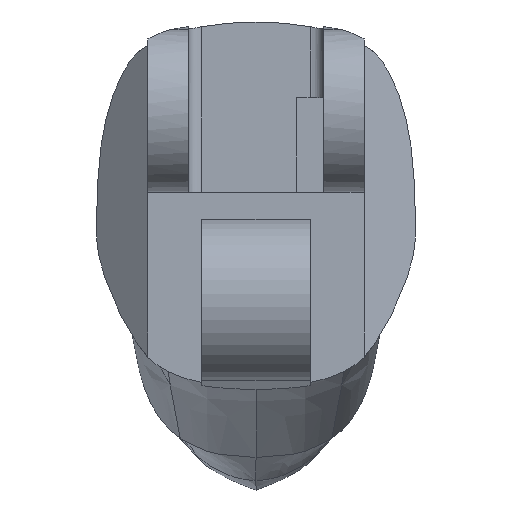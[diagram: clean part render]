
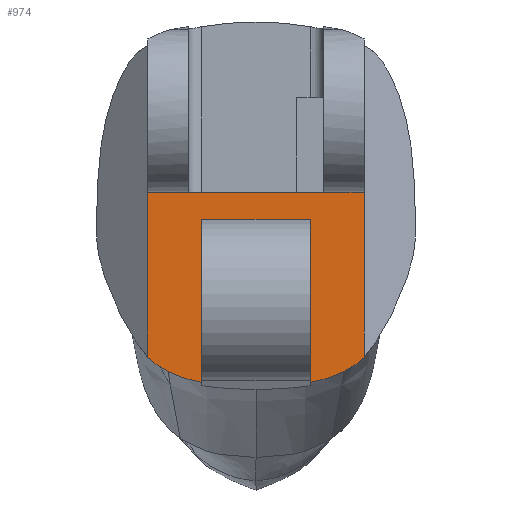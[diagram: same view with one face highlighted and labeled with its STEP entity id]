
A CAD part, top view. The second image highlights one B-rep face of the part: STEP entity #974.
In plain terms, the highlighted planar face has unit normal (0, 0, 1).
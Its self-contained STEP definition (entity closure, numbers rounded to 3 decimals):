
#48=B_SPLINE_CURVE_WITH_KNOTS('',3,(#1418,#1419,#1420,#1421,#1422,#1423),
 .UNSPECIFIED.,.F.,.F.,(4,2,4),(-0.347,-0.128,0.),
 .UNSPECIFIED.);
#96=B_SPLINE_CURVE_WITH_KNOTS('',3,(#2527,#2528,#2529,#2530,#2531,#2532),
 .UNSPECIFIED.,.F.,.F.,(4,2,4),(-0.347,-0.128,0.),
 .UNSPECIFIED.);
#141=PLANE('',#1049);
#178=FACE_OUTER_BOUND('',#229,.T.);
#229=EDGE_LOOP('',(#781,#782,#783,#784,#785,#786,#787,#788,#789,#790));
#267=LINE('',#1239,#317);
#269=LINE('',#1245,#319);
#282=LINE('',#1572,#332);
#291=LINE('',#2520,#341);
#292=LINE('',#2522,#342);
#293=LINE('',#2523,#343);
#294=LINE('',#2525,#344);
#295=LINE('',#2533,#345);
#317=VECTOR('',#1098,1000.);
#319=VECTOR('',#1102,1000.);
#332=VECTOR('',#1131,1000.);
#341=VECTOR('',#1154,1000.);
#342=VECTOR('',#1157,1000.);
#343=VECTOR('',#1158,1000.);
#344=VECTOR('',#1159,1000.);
#345=VECTOR('',#1160,1000.);
#380=VERTEX_POINT('',#1227);
#385=VERTEX_POINT('',#1237);
#386=VERTEX_POINT('',#1241);
#388=VERTEX_POINT('',#1244);
#397=VERTEX_POINT('',#1416);
#398=VERTEX_POINT('',#1417);
#415=VERTEX_POINT('',#1569);
#416=VERTEX_POINT('',#1571);
#446=VERTEX_POINT('',#2524);
#447=VERTEX_POINT('',#2526);
#494=EDGE_CURVE('',#385,#380,#267,.T.);
#496=EDGE_CURVE('',#386,#388,#269,.T.);
#508=EDGE_CURVE('',#397,#398,#48,.T.);
#530=EDGE_CURVE('',#416,#415,#282,.T.);
#575=EDGE_CURVE('',#397,#388,#291,.T.);
#576=EDGE_CURVE('',#415,#398,#292,.T.);
#577=EDGE_CURVE('',#380,#386,#293,.T.);
#578=EDGE_CURVE('',#446,#385,#294,.T.);
#579=EDGE_CURVE('',#446,#447,#96,.T.);
#580=EDGE_CURVE('',#416,#447,#295,.T.);
#781=ORIENTED_EDGE('',*,*,#530,.T.);
#782=ORIENTED_EDGE('',*,*,#576,.T.);
#783=ORIENTED_EDGE('',*,*,#508,.F.);
#784=ORIENTED_EDGE('',*,*,#575,.T.);
#785=ORIENTED_EDGE('',*,*,#496,.F.);
#786=ORIENTED_EDGE('',*,*,#577,.F.);
#787=ORIENTED_EDGE('',*,*,#494,.F.);
#788=ORIENTED_EDGE('',*,*,#578,.F.);
#789=ORIENTED_EDGE('',*,*,#579,.T.);
#790=ORIENTED_EDGE('',*,*,#580,.F.);
#974=ADVANCED_FACE('',(#178),#141,.F.);
#1049=AXIS2_PLACEMENT_3D('',#2521,#1155,#1156);
#1098=DIRECTION('',(1.,0.,0.));
#1102=DIRECTION('',(1.,0.,0.));
#1131=DIRECTION('',(1.,0.,0.));
#1154=DIRECTION('',(0.,1.,0.));
#1155=DIRECTION('center_axis',(0.,0.,-1.));
#1156=DIRECTION('ref_axis',(-1.,0.,0.));
#1157=DIRECTION('',(0.,-1.,0.));
#1158=DIRECTION('',(1.,0.,0.));
#1159=DIRECTION('',(0.,1.,0.));
#1160=DIRECTION('',(0.,-1.,0.));
#1227=CARTESIAN_POINT('',(1.5,1.5,-10.));
#1237=CARTESIAN_POINT('',(-4.,1.5,-10.));
#1239=CARTESIAN_POINT('',(-0.005,1.5,-10.));
#1241=CARTESIAN_POINT('',(2.5,1.5,-10.));
#1244=CARTESIAN_POINT('',(4.,1.5,-10.));
#1245=CARTESIAN_POINT('',(-0.005,1.5,-10.));
#1416=CARTESIAN_POINT('',(4.,-4.594,-10.));
#1417=CARTESIAN_POINT('',(2.,-5.529,-10.));
#1418=CARTESIAN_POINT('Ctrl Pts',(4.,-4.594,-10.));
#1419=CARTESIAN_POINT('Ctrl Pts',(3.864,-4.734,-10.));
#1420=CARTESIAN_POINT('Ctrl Pts',(3.584,-4.988,-10.));
#1421=CARTESIAN_POINT('Ctrl Pts',(2.768,-5.341,-10.));
#1422=CARTESIAN_POINT('Ctrl Pts',(2.419,-5.447,-10.));
#1423=CARTESIAN_POINT('Ctrl Pts',(2.,-5.529,-10.));
#1569=CARTESIAN_POINT('',(2.,0.5,-10.));
#1571=CARTESIAN_POINT('',(-2.,0.5,-10.));
#1572=CARTESIAN_POINT('',(-0.005,0.5,-10.));
#2520=CARTESIAN_POINT('',(4.,-9.474,-10.));
#2521=CARTESIAN_POINT('Origin',(-0.005,1.5,-10.));
#2522=CARTESIAN_POINT('',(2.,1.,-10.));
#2523=CARTESIAN_POINT('',(-0.005,1.5,-10.));
#2524=CARTESIAN_POINT('',(-4.,-4.594,-10.));
#2525=CARTESIAN_POINT('',(-4.,-9.474,-10.));
#2526=CARTESIAN_POINT('',(-2.,-5.529,-10.));
#2527=CARTESIAN_POINT('Ctrl Pts',(-4.,-4.594,-10.));
#2528=CARTESIAN_POINT('Ctrl Pts',(-3.864,-4.734,-10.));
#2529=CARTESIAN_POINT('Ctrl Pts',(-3.584,-4.988,-10.));
#2530=CARTESIAN_POINT('Ctrl Pts',(-2.768,-5.341,-10.));
#2531=CARTESIAN_POINT('Ctrl Pts',(-2.419,-5.447,-10.));
#2532=CARTESIAN_POINT('Ctrl Pts',(-2.,-5.529,-10.));
#2533=CARTESIAN_POINT('',(-2.,1.,-10.));
